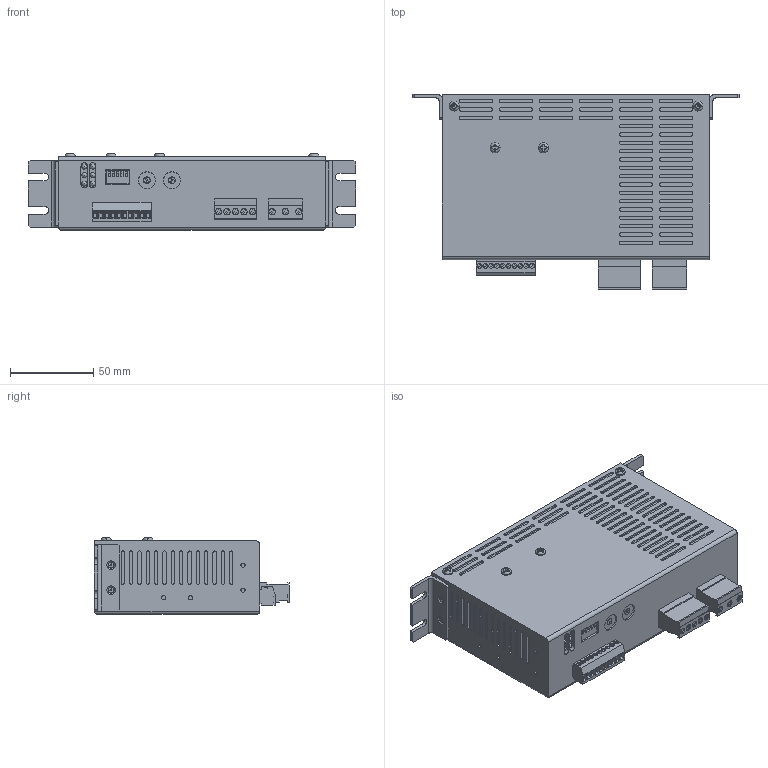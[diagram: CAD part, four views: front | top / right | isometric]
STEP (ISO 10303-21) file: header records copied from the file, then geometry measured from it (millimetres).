
FILE_DESCRIPTION (( 'STEP AP214' ), '1' );
FILE_NAME ('EXD2120CE.STEP', '2011-09-22T01:25:25', ( 'extion' ), ( '' ), 'SwSTEP 2.0', 'SolidWorks 2010', '' );
FILE_SCHEMA (( 'AUTOMOTIVE_DESIGN' ));
Length unit declared in the file: millimetre
Products named in the file (1): EXD2120CE
Bounding box: 196 x 116.9 x 46 mm (x, y, z)
Volume: 708410.7 mm3; surface area: 66887.1 mm2
Topology: 1 solids, 5 shells, 1142 faces, 2837 edges, 1854 vertices
Faces by surface type: plane 765, cylinder 355, cone 8, torus 8, sphere 6
Entity records: 38601 total; most frequent: CARTESIAN_POINT 5976, DIRECTION 5887, ORIENTED_EDGE 5638, EDGE_CURVE 2819, LINE 1965, VECTOR 1965, AXIS2_PLACEMENT_3D 1961, VERTEX_POINT 1842
